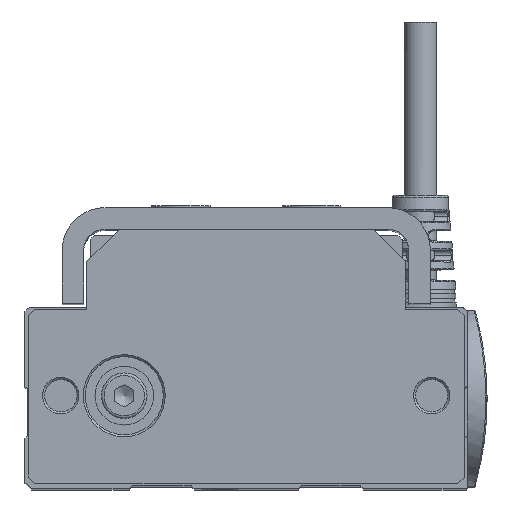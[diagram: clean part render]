
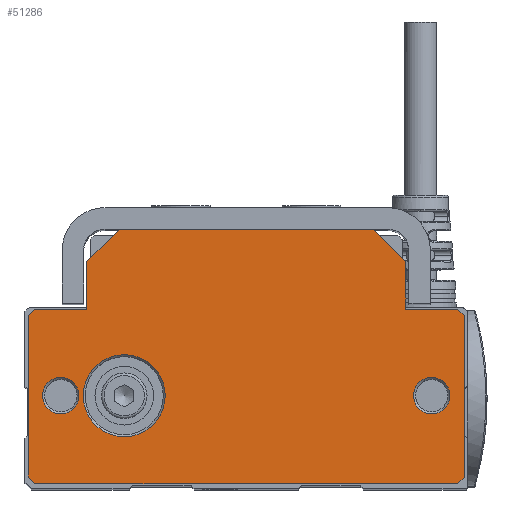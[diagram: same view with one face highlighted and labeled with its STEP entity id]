
A CAD part, top view. The second image highlights one B-rep face of the part: STEP entity #51286.
In plain terms, the highlighted planar face has unit normal (0, 0, 1).
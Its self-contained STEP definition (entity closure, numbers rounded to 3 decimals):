
#4147=FACE_BOUND('',#9795,.T.);
#4148=FACE_BOUND('',#9796,.T.);
#4149=FACE_BOUND('',#9797,.T.);
#4890=PLANE('',#54989);
#6952=FACE_OUTER_BOUND('',#9794,.T.);
#9794=EDGE_LOOP('',(#41556,#41557,#41558,#41559,#41560,#41561,#41562,#41563,
#41564,#41565,#41566,#41567,#41568,#41569));
#9795=EDGE_LOOP('',(#41570,#41571));
#9796=EDGE_LOOP('',(#41572,#41573));
#9797=EDGE_LOOP('',(#41574,#41575));
#13420=LINE('',#86799,#17419);
#13422=LINE('',#86803,#17421);
#13425=LINE('',#86809,#17424);
#13426=LINE('',#86811,#17425);
#13427=LINE('',#86813,#17426);
#13428=LINE('',#86815,#17427);
#13429=LINE('',#86817,#17428);
#13430=LINE('',#86819,#17429);
#13431=LINE('',#86821,#17430);
#13432=LINE('',#86823,#17431);
#13433=LINE('',#86825,#17432);
#13434=LINE('',#86827,#17433);
#13435=LINE('',#86829,#17434);
#13436=LINE('',#86830,#17435);
#17419=VECTOR('',#63490,10.);
#17421=VECTOR('',#63494,1000.);
#17424=VECTOR('',#63499,1000.);
#17425=VECTOR('',#63500,10.);
#17426=VECTOR('',#63501,1000.);
#17427=VECTOR('',#63502,1000.);
#17428=VECTOR('',#63503,1000.);
#17429=VECTOR('',#63504,1000.);
#17430=VECTOR('',#63505,1000.);
#17431=VECTOR('',#63506,1000.);
#17432=VECTOR('',#63507,1000.);
#17433=VECTOR('',#63508,1000.);
#17434=VECTOR('',#63509,1000.);
#17435=VECTOR('',#63510,1000.);
#20192=CIRCLE('',#54990,2.8);
#20193=CIRCLE('',#54991,2.8);
#20194=CIRCLE('',#54992,2.8);
#20195=CIRCLE('',#54993,2.8);
#20196=CIRCLE('',#54994,6.3);
#20197=CIRCLE('',#54995,6.3);
#24010=VERTEX_POINT('',#86796);
#24011=VERTEX_POINT('',#86798);
#24012=VERTEX_POINT('',#86802);
#24014=VERTEX_POINT('',#86808);
#24015=VERTEX_POINT('',#86810);
#24016=VERTEX_POINT('',#86812);
#24017=VERTEX_POINT('',#86814);
#24018=VERTEX_POINT('',#86816);
#24019=VERTEX_POINT('',#86818);
#24020=VERTEX_POINT('',#86820);
#24021=VERTEX_POINT('',#86822);
#24022=VERTEX_POINT('',#86824);
#24023=VERTEX_POINT('',#86826);
#24024=VERTEX_POINT('',#86828);
#24025=VERTEX_POINT('',#86831);
#24026=VERTEX_POINT('',#86832);
#24027=VERTEX_POINT('',#86835);
#24028=VERTEX_POINT('',#86836);
#24029=VERTEX_POINT('',#86839);
#24030=VERTEX_POINT('',#86840);
#30308=EDGE_CURVE('',#24010,#24011,#13420,.T.);
#30310=EDGE_CURVE('',#24011,#24012,#13422,.T.);
#30313=EDGE_CURVE('',#24010,#24014,#13425,.T.);
#30314=EDGE_CURVE('',#24015,#24014,#13426,.T.);
#30315=EDGE_CURVE('',#24016,#24015,#13427,.T.);
#30316=EDGE_CURVE('',#24017,#24016,#13428,.T.);
#30317=EDGE_CURVE('',#24017,#24018,#13429,.T.);
#30318=EDGE_CURVE('',#24018,#24019,#13430,.T.);
#30319=EDGE_CURVE('',#24019,#24020,#13431,.T.);
#30320=EDGE_CURVE('',#24021,#24020,#13432,.T.);
#30321=EDGE_CURVE('',#24021,#24022,#13433,.T.);
#30322=EDGE_CURVE('',#24022,#24023,#13434,.T.);
#30323=EDGE_CURVE('',#24023,#24024,#13435,.T.);
#30324=EDGE_CURVE('',#24012,#24024,#13436,.T.);
#30325=EDGE_CURVE('',#24025,#24026,#20192,.T.);
#30326=EDGE_CURVE('',#24026,#24025,#20193,.T.);
#30327=EDGE_CURVE('',#24027,#24028,#20194,.T.);
#30328=EDGE_CURVE('',#24028,#24027,#20195,.T.);
#30329=EDGE_CURVE('',#24029,#24030,#20196,.T.);
#30330=EDGE_CURVE('',#24030,#24029,#20197,.T.);
#41556=ORIENTED_EDGE('',*,*,#30308,.F.);
#41557=ORIENTED_EDGE('',*,*,#30313,.T.);
#41558=ORIENTED_EDGE('',*,*,#30314,.F.);
#41559=ORIENTED_EDGE('',*,*,#30315,.F.);
#41560=ORIENTED_EDGE('',*,*,#30316,.F.);
#41561=ORIENTED_EDGE('',*,*,#30317,.T.);
#41562=ORIENTED_EDGE('',*,*,#30318,.T.);
#41563=ORIENTED_EDGE('',*,*,#30319,.T.);
#41564=ORIENTED_EDGE('',*,*,#30320,.F.);
#41565=ORIENTED_EDGE('',*,*,#30321,.T.);
#41566=ORIENTED_EDGE('',*,*,#30322,.T.);
#41567=ORIENTED_EDGE('',*,*,#30323,.T.);
#41568=ORIENTED_EDGE('',*,*,#30324,.F.);
#41569=ORIENTED_EDGE('',*,*,#30310,.F.);
#41570=ORIENTED_EDGE('',*,*,#30325,.T.);
#41571=ORIENTED_EDGE('',*,*,#30326,.T.);
#41572=ORIENTED_EDGE('',*,*,#30327,.T.);
#41573=ORIENTED_EDGE('',*,*,#30328,.T.);
#41574=ORIENTED_EDGE('',*,*,#30329,.T.);
#41575=ORIENTED_EDGE('',*,*,#30330,.T.);
#51286=ADVANCED_FACE('',(#6952,#4147,#4148,#4149),#4890,.T.);
#54989=AXIS2_PLACEMENT_3D('',#86807,#63497,#63498);
#54990=AXIS2_PLACEMENT_3D('',#86833,#63511,#63512);
#54991=AXIS2_PLACEMENT_3D('',#86834,#63513,#63514);
#54992=AXIS2_PLACEMENT_3D('',#86837,#63515,#63516);
#54993=AXIS2_PLACEMENT_3D('',#86838,#63517,#63518);
#54994=AXIS2_PLACEMENT_3D('',#86841,#63519,#63520);
#54995=AXIS2_PLACEMENT_3D('',#86842,#63521,#63522);
#63490=DIRECTION('',(0.707,-0.707,0.));
#63494=DIRECTION('',(0.,-1.,0.));
#63497=DIRECTION('center_axis',(0.,0.,1.));
#63498=DIRECTION('ref_axis',(1.,0.,0.));
#63499=DIRECTION('',(-1.,0.,0.));
#63500=DIRECTION('',(0.707,0.707,0.));
#63501=DIRECTION('',(0.,1.,0.));
#63502=DIRECTION('',(1.,0.,0.));
#63503=DIRECTION('',(-0.707,-0.707,0.));
#63504=DIRECTION('',(0.,-1.,0.));
#63505=DIRECTION('',(0.707,-0.707,0.));
#63506=DIRECTION('',(-1.,0.,0.));
#63507=DIRECTION('',(0.707,0.707,0.));
#63508=DIRECTION('',(0.,1.,0.));
#63509=DIRECTION('',(-0.707,0.707,0.));
#63510=DIRECTION('',(1.,0.,0.));
#63511=DIRECTION('center_axis',(0.,0.,-1.));
#63512=DIRECTION('ref_axis',(1.,0.,0.));
#63513=DIRECTION('center_axis',(0.,0.,-1.));
#63514=DIRECTION('ref_axis',(1.,0.,0.));
#63515=DIRECTION('center_axis',(0.,0.,-1.));
#63516=DIRECTION('ref_axis',(1.,0.,0.));
#63517=DIRECTION('center_axis',(0.,0.,-1.));
#63518=DIRECTION('ref_axis',(1.,0.,0.));
#63519=DIRECTION('center_axis',(0.,0.,-1.));
#63520=DIRECTION('ref_axis',(1.,0.,0.));
#63521=DIRECTION('center_axis',(0.,0.,-1.));
#63522=DIRECTION('ref_axis',(1.,0.,0.));
#86796=CARTESIAN_POINT('',(19.5,19.575,0.));
#86798=CARTESIAN_POINT('',(24.5,14.575,0.));
#86799=CARTESIAN_POINT('',(20.769,18.306,0.));
#86802=CARTESIAN_POINT('',(24.5,7.275,0.));
#86803=CARTESIAN_POINT('',(24.5,20.025,0.));
#86807=CARTESIAN_POINT('Origin',(0.,0.,0.));
#86808=CARTESIAN_POINT('',(-19.5,19.575,0.));
#86809=CARTESIAN_POINT('',(-33.5,19.575,0.));
#86810=CARTESIAN_POINT('',(-24.5,14.575,0.));
#86811=CARTESIAN_POINT('',(-20.769,18.306,0.));
#86812=CARTESIAN_POINT('',(-24.5,7.275,0.));
#86813=CARTESIAN_POINT('',(-24.5,20.025,0.));
#86814=CARTESIAN_POINT('',(-32.5,7.275,0.));
#86815=CARTESIAN_POINT('',(-33.5,7.275,0.));
#86816=CARTESIAN_POINT('',(-33.5,6.275,0.));
#86817=CARTESIAN_POINT('',(-19.888,19.888,0.));
#86818=CARTESIAN_POINT('',(-33.5,-18.525,0.));
#86819=CARTESIAN_POINT('',(-33.5,20.025,0.));
#86820=CARTESIAN_POINT('',(-32.5,-19.525,0.));
#86821=CARTESIAN_POINT('',(-26.013,-26.012,0.));
#86822=CARTESIAN_POINT('',(32.5,-19.525,0.));
#86823=CARTESIAN_POINT('',(33.5,-19.525,0.));
#86824=CARTESIAN_POINT('',(33.5,-18.525,0.));
#86825=CARTESIAN_POINT('',(26.013,-26.012,0.));
#86826=CARTESIAN_POINT('',(33.5,6.275,0.));
#86827=CARTESIAN_POINT('',(33.5,20.025,0.));
#86828=CARTESIAN_POINT('',(32.5,7.275,0.));
#86829=CARTESIAN_POINT('',(19.888,19.888,0.));
#86830=CARTESIAN_POINT('',(33.5,7.275,0.));
#86831=CARTESIAN_POINT('',(31.3,-6.025,0.));
#86832=CARTESIAN_POINT('',(25.7,-6.025,0.));
#86833=CARTESIAN_POINT('Origin',(28.5,-6.025,0.));
#86834=CARTESIAN_POINT('Origin',(28.5,-6.025,0.));
#86835=CARTESIAN_POINT('',(-25.7,-6.025,0.));
#86836=CARTESIAN_POINT('',(-31.3,-6.025,0.));
#86837=CARTESIAN_POINT('Origin',(-28.5,-6.025,0.));
#86838=CARTESIAN_POINT('Origin',(-28.5,-6.025,0.));
#86839=CARTESIAN_POINT('',(-12.45,-6.025,0.));
#86840=CARTESIAN_POINT('',(-25.05,-6.025,0.));
#86841=CARTESIAN_POINT('Origin',(-18.75,-6.025,0.));
#86842=CARTESIAN_POINT('Origin',(-18.75,-6.025,0.));
